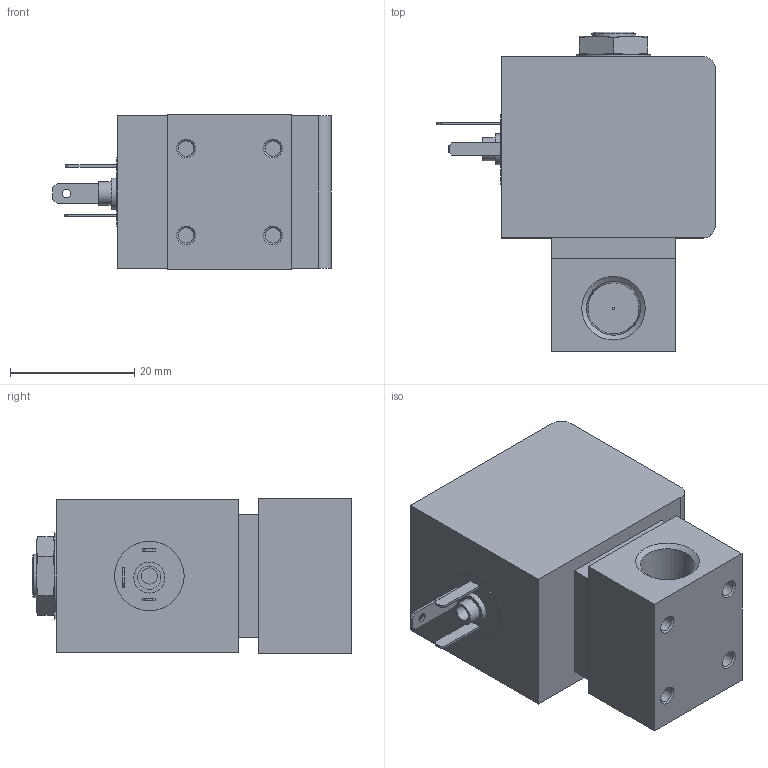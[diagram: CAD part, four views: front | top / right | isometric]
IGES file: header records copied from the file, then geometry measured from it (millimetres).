
Start section: Data from Parasolid IGES Translator 26.0.171, Copyright(c) 2006 Siemens PLM Software. All Rights Reserved.
Global section: file name: 7011-20069586_Plunger_valve_2_2_way_direct_acting.igs; native system: By Siemens PLM Incorporated; preprocessor: XPlus GENERIC/IGES 26.0.171; author: Noname; organization: Noname; date: 20250518.141837; units: millimetre
Bounding box: 44.9 x 51.55 x 25 mm (x, y, z)
Surface area: 8031.9 mm2 (no closed solid volume)
Topology: 0 solids, 0 shells, 119 faces, 572 edges, 554 vertices
Faces by surface type: extrusion 78, revolution 41
